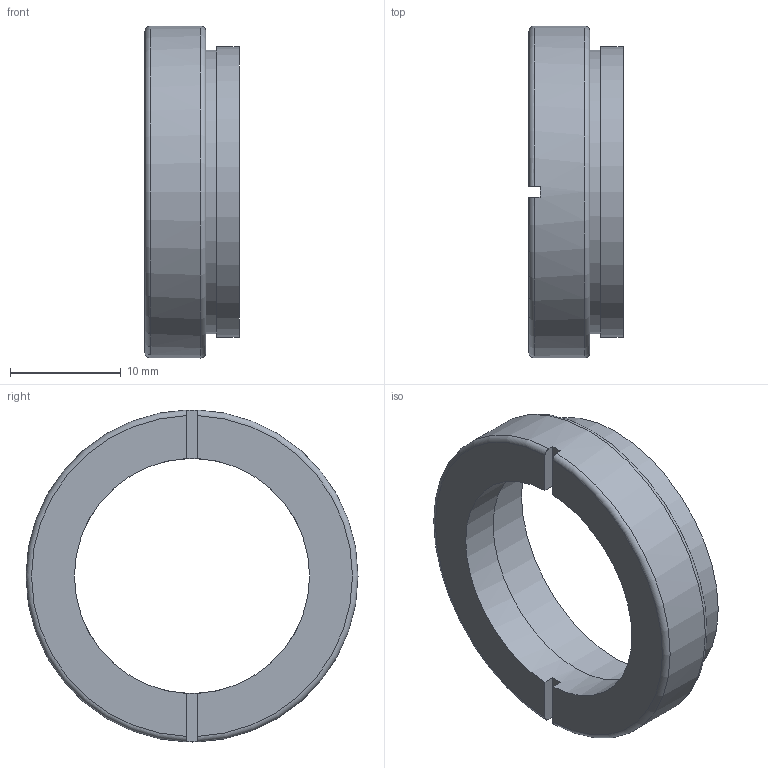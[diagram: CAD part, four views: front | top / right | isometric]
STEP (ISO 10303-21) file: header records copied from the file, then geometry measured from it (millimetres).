
FILE_DESCRIPTION(('', 'CAx-IF Rec.Pracs.---Representation and Presentation of Product Manufacturing Information (PMI)---4.0---2014-10-13'),'2;1');
FILE_NAME('//Fs001/share/Public_Corp/41_技術・開発/00_図面/03_光学素子/素子規格品図面化PJ/01_光学素子規格品/31光学素子標準品/金枠/ｽﾍﾟｰｻ・変換ｱﾀﾞﾌﾟﾀ(ADP・LHSP)/M/', '2022-12-20T04:40:32',(''), ('シグマ光機'), 'Kubotek Kosmos Version 3.0.7534.7534', 'KeyCreator Pro', '');
FILE_SCHEMA(('AP242_MANAGED_MODEL_BASED_3D_ENGINEERING_MIM_LF { 1 0 10303 442 1 1 4 }'));
Length unit declared in the file: millimetre
Bounding box: 8.5 x 30 x 30 mm (x, y, z)
Volume: 1968.3 mm3; surface area: 2104.1 mm2
Topology: 1 solids, 1 shells, 20 faces, 50 edges, 34 vertices
Faces by surface type: plane 12, cylinder 5, torus 3
Full cylindrical faces by diameter (mm): 21.25 x1, 24 x1, 25.654 x1, 26.289 x1, 30 x1
Entity records: 660 total; most frequent: CARTESIAN_POINT 164, ORIENTED_EDGE 100, DIRECTION 97, EDGE_CURVE 50, AXIS2_PLACEMENT_3D 39, VERTEX_POINT 34, EDGE_LOOP 24, FACE_OUTER_BOUND 20
